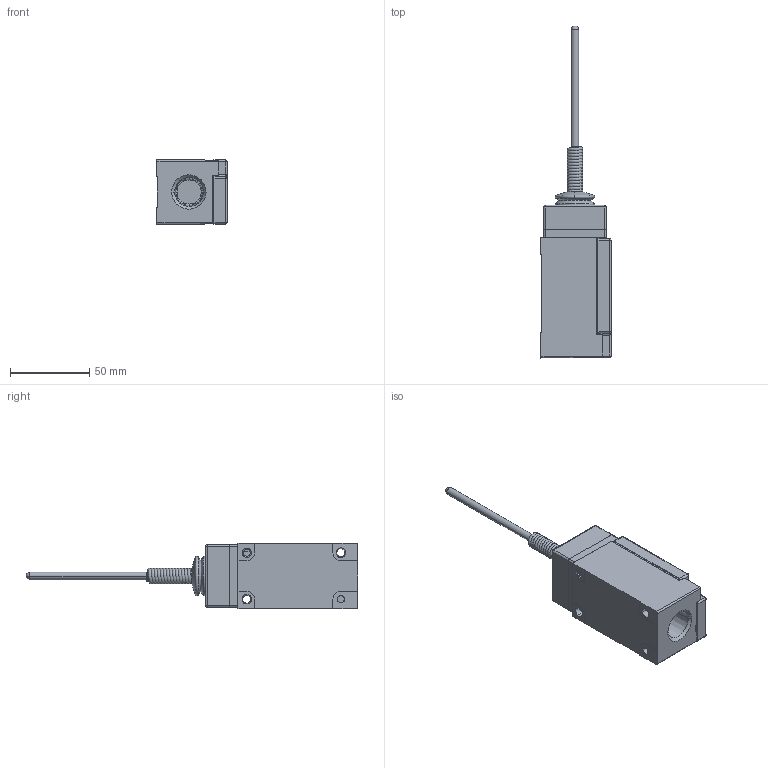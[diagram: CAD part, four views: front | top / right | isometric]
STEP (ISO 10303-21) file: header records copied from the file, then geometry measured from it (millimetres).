
FILE_DESCRIPTION((''),'2;1');
FILE_NAME('LSJ3K-7N','2012-12-06T',('E522935'),(''),'PRO/ENGINEER BY PARAMETRIC TECHNOLOGY CORPORATION, 2009460','PRO/ENGINEER BY PARAMETRIC TECHNOLOGY CORPORATION, 2009460','');
FILE_SCHEMA(('CONFIG_CONTROL_DESIGN'));
Length unit declared in the file: inch
Products named in the file (1): LSJ3K-7N
Bounding box: 44.32 x 210.03 x 41.15 mm (x, y, z)
Volume: 164738.3 mm3; surface area: 30721 mm2
Topology: 2 solids, 2 shells, 476 faces, 1169 edges, 711 vertices
Faces by surface type: plane 239, cylinder 149, cone 38, sphere 24, bspline 18, torus 8
Entity records: 24202 total; most frequent: CARTESIAN_POINT 13067, ORIENTED_EDGE 2334, DIRECTION 2304, EDGE_CURVE 1167, AXIS2_PLACEMENT_3D 844, VERTEX_POINT 711, VECTOR 616, LINE 616
